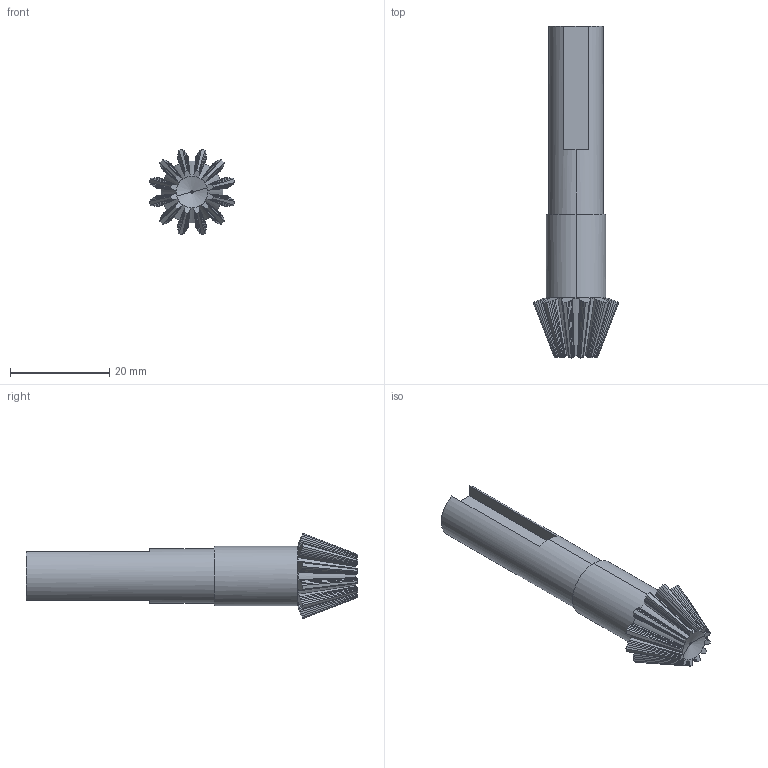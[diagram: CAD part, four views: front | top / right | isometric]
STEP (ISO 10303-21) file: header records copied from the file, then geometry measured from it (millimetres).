
FILE_DESCRIPTION (( 'STEP AP203' ), '1' );
FILE_NAME ('Smaller (bigger ) Bevel.STEP', '2026-01-17T21:10:57', ( '' ), ( '' ), 'SwSTEP 2.0', 'SolidWorks 2026', '' );
FILE_SCHEMA (( 'CONFIG_CONTROL_DESIGN' ));
Length unit declared in the file: millimetre
Products named in the file (1): Smaller (bigger ) Bevel
Bounding box: 17.28 x 67.04 x 17.28 mm (x, y, z)
Volume: 6009.2 mm3; surface area: 3305.2 mm2
Topology: 1 solids, 1 shells, 235 faces, 668 edges, 436 vertices
Faces by surface type: plane 215, cone 16, cylinder 4
Entity records: 7697 total; most frequent: CARTESIAN_POINT 1700, ORIENTED_EDGE 1336, DIRECTION 1084, EDGE_CURVE 668, LINE 532, VECTOR 532, VERTEX_POINT 436, AXIS2_PLACEMENT_3D 276
